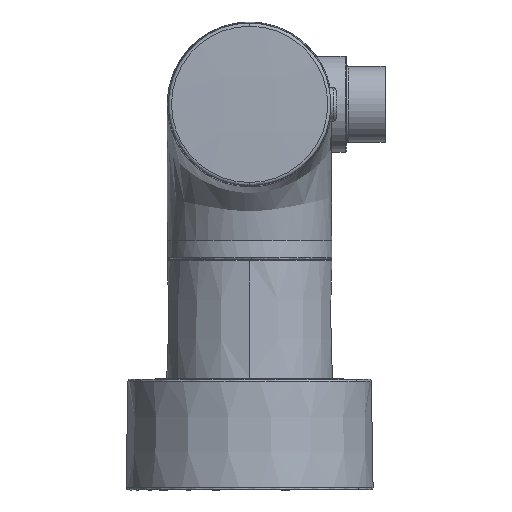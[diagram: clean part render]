
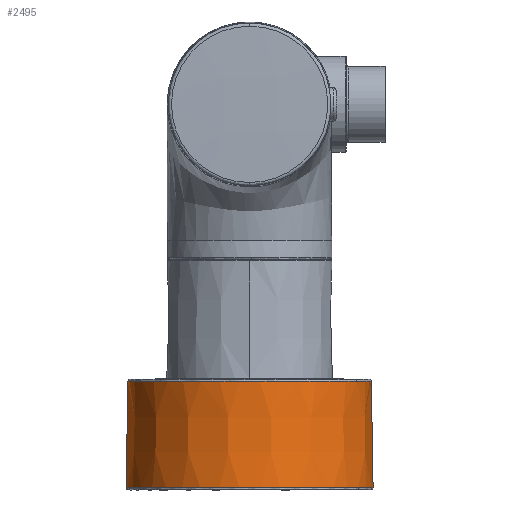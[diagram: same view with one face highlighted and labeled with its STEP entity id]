
A CAD part, left-side view. The second image highlights one B-rep face of the part: STEP entity #2495.
In plain terms, the highlighted conical face has half-angle 0.955 degrees and reference radius 29.991 mm.
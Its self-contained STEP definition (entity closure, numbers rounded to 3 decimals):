
#304 = FACE_OUTER_BOUND ( 'NONE', #20427, .T. ) ;
#1230 = DIRECTION ( 'NONE',  ( 0.479, 0.878, 0. ) ) ;
#1608 = CARTESIAN_POINT ( 'NONE',  ( -75., -14.991, -93.144 ) ) ;
#2025 = ORIENTED_EDGE ( 'NONE', *, *, #3289, .T. ) ;
#2153 = CARTESIAN_POINT ( 'NONE',  ( -75., 15., -93.144 ) ) ;
#2495 = ADVANCED_FACE ( 'NONE', ( #304 ), #16606, .T. ) ;
#2684 = CIRCLE ( 'NONE', #14981, 29.991 ) ;
#2883 = AXIS2_PLACEMENT_3D ( 'NONE', #2153, #10523, #20934 ) ;
#2915 = EDGE_CURVE ( 'NONE', #16020, #15977, #6549, .T. ) ;
#3249 = ORIENTED_EDGE ( 'NONE', *, *, #15164, .T. ) ;
#3289 = EDGE_CURVE ( 'NONE', #15977, #16694, #20896, .T. ) ;
#4656 = ORIENTED_EDGE ( 'NONE', *, *, #22394, .F. ) ;
#5300 = EDGE_CURVE ( 'NONE', #16694, #17832, #5472, .T. ) ;
#5472 = CIRCLE ( 'NONE', #6421, 29.991 ) ;
#5526 = AXIS2_PLACEMENT_3D ( 'NONE', #16096, #5733, #9299 ) ;
#5733 = DIRECTION ( 'NONE',  ( 0., 0., -1. ) ) ;
#6421 = AXIS2_PLACEMENT_3D ( 'NONE', #10192, #20321, #1230 ) ;
#6549 = CIRCLE ( 'NONE', #5526, 29.56 ) ;
#8488 = ORIENTED_EDGE ( 'NONE', *, *, #5300, .T. ) ;
#8750 = CARTESIAN_POINT ( 'NONE',  ( -75., 44.991, -93.144 ) ) ;
#9299 = DIRECTION ( 'NONE',  ( 0.479, 0.878, 0. ) ) ;
#9587 = CARTESIAN_POINT ( 'NONE',  ( -75., 15., -67.279 ) ) ;
#9820 = CARTESIAN_POINT ( 'NONE',  ( -89.248, -11.391, -93.144 ) ) ;
#10192 = CARTESIAN_POINT ( 'NONE',  ( -75., 15., -93.144 ) ) ;
#10194 = CARTESIAN_POINT ( 'NONE',  ( -89.037, -11.015, -67.279 ) ) ;
#10523 = DIRECTION ( 'NONE',  ( 0., 0., -1. ) ) ;
#10664 = EDGE_CURVE ( 'NONE', #17649, #16020, #15425, .T. ) ;
#11328 = DIRECTION ( 'NONE',  ( 0.479, 0.878, 0. ) ) ;
#11590 = DIRECTION ( 'NONE',  ( 0., -0.017, -1. ) ) ;
#12025 = CARTESIAN_POINT ( 'NONE',  ( -75., -14.991, -93.144 ) ) ;
#12043 = VERTEX_POINT ( 'NONE', #1608 ) ;
#12655 = DIRECTION ( 'NONE',  ( 0., 0., 1. ) ) ;
#12728 = VECTOR ( 'NONE', #11590, 1000. ) ;
#12871 = AXIS2_PLACEMENT_3D ( 'NONE', #9587, #21672, #11328 ) ;
#14146 = DIRECTION ( 'NONE',  ( 0., 0.017, -1. ) ) ;
#14185 = ORIENTED_EDGE ( 'NONE', *, *, #2915, .T. ) ;
#14981 = AXIS2_PLACEMENT_3D ( 'NONE', #17810, #12655, #17881 ) ;
#15164 = EDGE_CURVE ( 'NONE', #17832, #12043, #2684, .T. ) ;
#15425 = CIRCLE ( 'NONE', #12871, 29.56 ) ;
#15944 = CARTESIAN_POINT ( 'NONE',  ( -75., -14.56, -67.279 ) ) ;
#15977 = VERTEX_POINT ( 'NONE', #16937 ) ;
#16020 = VERTEX_POINT ( 'NONE', #10194 ) ;
#16074 = CARTESIAN_POINT ( 'NONE',  ( -75., 44.991, -93.144 ) ) ;
#16096 = CARTESIAN_POINT ( 'NONE',  ( -75., 15., -67.279 ) ) ;
#16606 = CONICAL_SURFACE ( 'NONE', #2883, 29.991, 0.017 ) ;
#16694 = VERTEX_POINT ( 'NONE', #8750 ) ;
#16937 = CARTESIAN_POINT ( 'NONE',  ( -75., 44.56, -67.279 ) ) ;
#17137 = ORIENTED_EDGE ( 'NONE', *, *, #10664, .T. ) ;
#17338 = LINE ( 'NONE', #12025, #12728 ) ;
#17649 = VERTEX_POINT ( 'NONE', #15944 ) ;
#17810 = CARTESIAN_POINT ( 'NONE',  ( -75., 15., -93.144 ) ) ;
#17832 = VERTEX_POINT ( 'NONE', #9820 ) ;
#17881 = DIRECTION ( 'NONE',  ( 0.479, 0.878, 0. ) ) ;
#19837 = VECTOR ( 'NONE', #14146, 1000. ) ;
#20321 = DIRECTION ( 'NONE',  ( 0., 0., 1. ) ) ;
#20427 = EDGE_LOOP ( 'NONE', ( #4656, #17137, #14185, #2025, #8488, #3249 ) ) ;
#20896 = LINE ( 'NONE', #16074, #19837 ) ;
#20934 = DIRECTION ( 'NONE',  ( 0., 1., 0. ) ) ;
#21672 = DIRECTION ( 'NONE',  ( 0., 0., -1. ) ) ;
#22394 = EDGE_CURVE ( 'NONE', #17649, #12043, #17338, .T. ) ;
